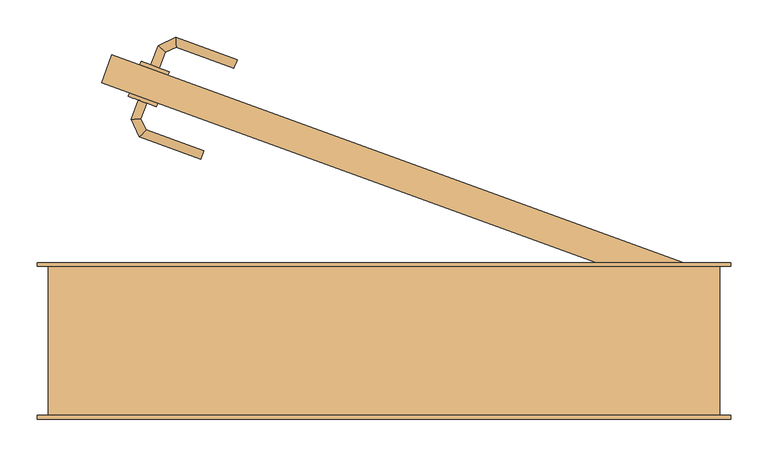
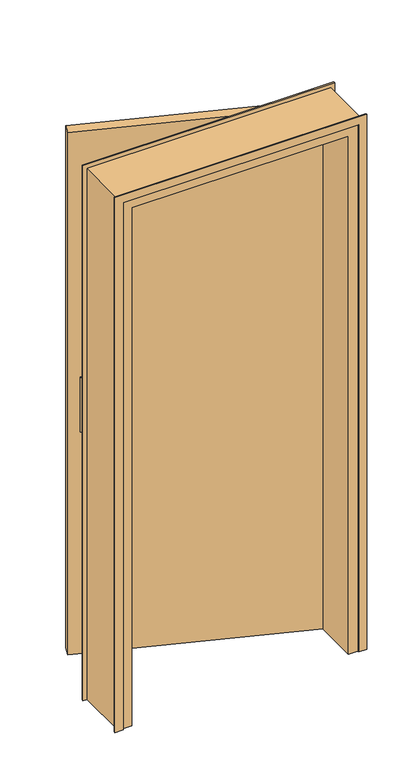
"""IFC4 building model written with IfcOpenShell, lengths in millimetres: door geometry, @_Int. Simple : @_PP (0.83m x 2.04m)."""

from ifc_helpers import new_model, si_unit, point, frame, frame_2d, origin, origin_with_axes, place, context, project, spatial, polyline, circle_curve, ellipse_curve, trimmed, segment, composite_curve, outline, extrude, faceted_brep, source, transform, mapped, element, save
from ifc_brep_helpers import plane_surface, cylinder_surface, advanced_brep


def door_4948b6b3(model_context):
    return source(origin(), model_context, "Body", "SolidModel", [
        extrude(outline(composite_curve([segment(trimmed(circle_curve(frame_2d((0.0, 40.0)), 40.0), [point((34.6410162, 60.0))], [point((34.6410162, 20.0))], False, "CARTESIAN"), True, "CONTINUOUS"), segment(polyline([(34.6410162, 20.0), (-175.3589838, 20.0)]), True, "CONTINUOUS"), segment(trimmed(circle_curve(frame_2d((-140.7179676, 40.0)), 40.0), [point((-175.3589838, 20.0))], [point((-175.3589838, 60.0))], False, "CARTESIAN"), True, "CONTINUOUS"), segment(polyline([(-175.3589838, 60.0), (34.6410162, 60.0)]), True, "CONTINUOUS")], self_intersect=False)), frame((-305.9756132, 349.6747046, 904.6410162), z_axis=(0.3420201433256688, 0.9396926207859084, 0.0), x_axis=(0.0, 0.0, -1.0)), (0.0, 0.0, 1.0), 5.0),
        extrude(outline(composite_curve([segment(trimmed(circle_curve(frame_2d((0.0, 40.0000001)), 40.0), [point((-34.6410162, 20.0))], [point((-34.6410162, 60.0))], False, "CARTESIAN"), True, "CONTINUOUS"), segment(polyline([(-34.6410162, 60.0), (175.3589838, 60.0)]), True, "CONTINUOUS"), segment(trimmed(circle_curve(frame_2d((140.7179676, 40.0000001)), 40.0), [point((175.3589838, 60.0))], [point((175.3589838, 20.0))], False, "CARTESIAN"), True, "CONTINUOUS"), segment(polyline([(175.3589838, 20.0), (-34.6410162, 20.0)]), True, "CONTINUOUS")], self_intersect=False)), frame((-321.3665196, 307.3885367, 1045.3589838), z_axis=(0.3420201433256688, 0.9396926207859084, 0.0), x_axis=(0.0, 0.0, -1.0)), (0.0, 0.0, 1.0), 5.0),
        advanced_brep(
        [(-347.491373, 370.1060943, 1007.0), (-347.491373, 370.1060943, 993.0), (-336.2150616, 366.0018526, 993.0), (-336.2150616, 366.0018526, 1007.0), (-328.457912, 387.3144458, 1007.0), (-338.0341909, 396.0894887, 1007.0), (-328.457912, 387.3144458, 993.0), (-338.0341909, 396.0894887, 993.0), (-313.9133269, 394.0966972, 1007.0), (-314.4798863, 407.0730413, 1007.0), (-313.9133269, 394.0966972, 993.0), (-314.4798863, 407.0730413, 993.0), (-232.1238807, 377.0979066, 1007.0), (-236.2281224, 365.8215952, 1007.0), (-236.2281224, 365.8215952, 993.0), (-232.1238807, 377.0979066, 993.0)],
        [
            (0, 1),
            (1, 2, circle_curve(frame((-341.8532173, 368.0539735, 1013.0457722), z_axis=(-0.3420201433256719, -0.9396926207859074, 0.0), x_axis=(0.9396926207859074, -0.3420201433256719, 0.0)), 20.9244589)),
            (2, 3),
            (3, 0, circle_curve(frame((-341.8532173, 368.0539735, 986.9542278), z_axis=(-0.3420201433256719, -0.9396926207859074, 0.0), x_axis=(0.9396926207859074, -0.3420201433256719, 0.0)), 20.9244589)),
            (3, 4),
            (4, 5, ellipse_curve(frame((-333.2460515, 391.7019672, 986.9542278), z_axis=(-0.6755902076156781, -0.7372773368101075, 0.0), x_axis=(0.7372773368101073, -0.6755902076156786, 0.0)), 22.6484711, 20.9244589)),
            (5, 0),
            (2, 6),
            (6, 4),
            (1, 7),
            (7, 6, ellipse_curve(frame((-333.2460515, 391.7019672, 1013.0457722), z_axis=(-0.6755902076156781, -0.7372773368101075, 0.0), x_axis=(0.7372773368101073, -0.6755902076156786, 0.0)), 22.6484711, 20.9244589)),
            (5, 7),
            (4, 8),
            (8, 9, ellipse_curve(frame((-314.1966066, 400.5848693, 986.9542278), z_axis=(-0.9990482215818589, -0.0436193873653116, 0.0), x_axis=(0.04361938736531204, -0.9990482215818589, 0.0)), 22.6484711, 20.9244589)),
            (9, 5),
            (6, 10),
            (10, 8),
            (7, 11),
            (11, 10, ellipse_curve(frame((-314.1966066, 400.5848693, 1013.0457722), z_axis=(-0.9990482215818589, -0.0436193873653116, 0.0), x_axis=(0.04361938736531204, -0.9990482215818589, 0.0)), 22.6484711, 20.9244589)),
            (9, 11),
            (12, 13, circle_curve(frame((-234.1760015, 371.4597509, 986.9542278), z_axis=(0.9396926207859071, -0.34202014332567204, 0.0), x_axis=(-0.3420201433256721, -0.9396926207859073, 0.0)), 20.9244589)),
            (13, 14),
            (14, 15, circle_curve(frame((-234.1760015, 371.4597509, 1013.0457722), z_axis=(0.9396926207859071, -0.34202014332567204, 0.0), x_axis=(-0.3420201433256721, -0.9396926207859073, 0.0)), 20.9244589)),
            (15, 12),
            (8, 13),
            (12, 9),
            (10, 14),
            (11, 15),
        ],
        [
            plane_surface(frame((-350.5167552, 371.2072434, 1000.0), z_axis=(-0.3420201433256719, -0.9396926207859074, 0.0), x_axis=(0.0, 0.0, -1.0))),
            cylinder_surface(frame((-341.8532173, 368.0539735, 986.9542278), z_axis=(-0.3420201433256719, -0.9396926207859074, 0.0), x_axis=(0.9396926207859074, -0.3420201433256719, 0.0)), 20.9244589),
            plane_surface(frame((-336.2150616, 366.0018526, 1007.0), z_axis=(0.9396926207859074, -0.3420201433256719, 0.0), x_axis=(0.3420201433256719, 0.9396926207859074, 0.0))),
            cylinder_surface(frame((-341.8532173, 368.0539735, 1013.0457722), z_axis=(-0.3420201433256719, -0.9396926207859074, 0.0), x_axis=(0.9396926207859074, -0.3420201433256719, 0.0)), 20.9244589),
            plane_surface(frame((-347.491373, 370.1060943, 993.0), z_axis=(-0.9396926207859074, 0.3420201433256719, 0.0), x_axis=(0.3420201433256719, 0.9396926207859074, 0.0))),
            cylinder_surface(frame((-333.2460515, 391.7019672, 986.9542278), z_axis=(-0.9063077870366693, -0.42261826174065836, 0.0), x_axis=(0.42261826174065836, -0.9063077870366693, 0.0)), 20.9244589),
            plane_surface(frame((-328.457912, 387.3144458, 1007.0), z_axis=(0.42261826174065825, -0.9063077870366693, 0.0), x_axis=(0.9063077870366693, 0.42261826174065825, 0.0))),
            cylinder_surface(frame((-333.2460515, 391.7019672, 1013.0457722), z_axis=(-0.9063077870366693, -0.42261826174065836, 0.0), x_axis=(0.42261826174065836, -0.9063077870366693, 0.0)), 20.9244589),
            plane_surface(frame((-338.0341909, 396.0894887, 993.0), z_axis=(-0.42261826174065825, 0.9063077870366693, 0.0), x_axis=(0.9063077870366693, 0.42261826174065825, 0.0))),
            plane_surface(frame((-234.1760015, 371.4597509, 990.7804555), z_axis=(0.9396926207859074, -0.3420201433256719, 0.0), x_axis=(-0.3420201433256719, -0.9396926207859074, 0.0))),
            cylinder_surface(frame((-314.1966066, 400.5848693, 986.9542278), z_axis=(-0.9396926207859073, 0.3420201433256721, 0.0), x_axis=(-0.3420201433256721, -0.9396926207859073, 0.0)), 20.9244589),
            plane_surface(frame((-313.9133269, 394.0966972, 1007.0), z_axis=(-0.3420201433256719, -0.9396926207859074, 0.0), x_axis=(0.9396926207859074, -0.3420201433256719, 0.0))),
            cylinder_surface(frame((-314.1966066, 400.5848693, 1013.0457722), z_axis=(-0.9396926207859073, 0.3420201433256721, 0.0), x_axis=(-0.3420201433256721, -0.9396926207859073, 0.0)), 20.9244589),
            plane_surface(frame((-314.4798863, 407.0730413, 993.0), z_axis=(0.3420201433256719, 0.9396926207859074, 0.0), x_axis=(0.9396926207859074, -0.3420201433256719, 0.0))),
        ],
        [
            (0, [[1, 2, 3, 4]]),
            (1, [[5, 6, 7, -4]]),
            (2, [[8, 9, -5, -3]]),
            (3, [[10, 11, -8, -2]]),
            (4, [[-7, 12, -10, -1]]),
            (5, [[13, 14, 15, -6]]),
            (6, [[16, 17, -13, -9]]),
            (7, [[18, 19, -16, -11]]),
            (8, [[-15, 20, -18, -12]]),
            (9, [[21, 22, 23, 24]]),
            (10, [[25, -21, 26, -14]]),
            (11, [[27, -22, -25, -17]]),
            (12, [[28, -23, -27, -19]]),
            (13, [[-26, -24, -28, -20]]),
        ],
    ),
        advanced_brep(
        [(-353.3160687, 319.0172216, 993.0), (-364.5923802, 323.1214633, 993.0), (-364.5923802, 323.1214633, 1007.0), (-353.3160687, 319.0172216, 1007.0), (-361.0064616, 297.8880408, 1007.0), (-361.0064616, 297.8880408, 993.0), (-373.9828056, 297.3214814, 1007.0), (-373.9828056, 297.3214814, 993.0), (-354.142025, 283.1672091, 1007.0), (-354.142025, 283.1672091, 993.0), (-362.9170679, 273.5909302, 1007.0), (-362.9170679, 273.5909302, 993.0), (-276.5605303, 254.9298543, 993.0), (-276.5605303, 254.9298543, 1007.0), (-280.664772, 243.6535428, 1007.0), (-280.664772, 243.6535428, 993.0)],
        [
            (0, 1, circle_curve(frame((-358.9542245, 321.0693424, 1013.0457722), z_axis=(0.3420201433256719, 0.9396926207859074, 0.0), x_axis=(-0.9396926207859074, 0.3420201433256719, 0.0)), 20.9244589)),
            (1, 2),
            (2, 3, circle_curve(frame((-358.9542245, 321.0693424, 986.9542278), z_axis=(0.3420201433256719, 0.9396926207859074, 0.0), x_axis=(-0.9396926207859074, 0.3420201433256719, 0.0)), 20.9244589)),
            (3, 0),
            (3, 4),
            (4, 5),
            (5, 0),
            (2, 6),
            (6, 4, ellipse_curve(frame((-367.4946336, 297.6047611, 986.9542278), z_axis=(-0.043619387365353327, 0.9990482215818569, 0.0), x_axis=(0.9990482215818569, 0.04361938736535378, 0.0)), 22.6484711, 20.9244589)),
            (1, 7),
            (7, 6),
            (5, 7, ellipse_curve(frame((-367.4946336, 297.6047611, 1013.0457722), z_axis=(-0.043619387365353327, 0.9990482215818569, 0.0), x_axis=(0.9990482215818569, 0.04361938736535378, 0.0)), 22.6484711, 20.9244589)),
            (4, 8),
            (8, 9),
            (9, 5),
            (6, 10),
            (10, 8, ellipse_curve(frame((-358.5295465, 278.3790696, 986.9542278), z_axis=(-0.737277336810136, 0.6755902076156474, 0.0), x_axis=(0.6755902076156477, 0.7372773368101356, 0.0)), 22.6484711, 20.9244589)),
            (7, 11),
            (11, 10),
            (9, 11, ellipse_curve(frame((-358.5295465, 278.3790696, 1013.0457722), z_axis=(-0.737277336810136, 0.6755902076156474, 0.0), x_axis=(0.6755902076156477, 0.7372773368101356, 0.0)), 22.6484711, 20.9244589)),
            (12, 13),
            (13, 14, circle_curve(frame((-278.6126511, 249.2916985, 986.9542278), z_axis=(0.9396926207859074, -0.3420201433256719, 0.0), x_axis=(-0.3420201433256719, -0.9396926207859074, 0.0)), 20.9244589)),
            (14, 15),
            (15, 12, circle_curve(frame((-278.6126511, 249.2916985, 1013.0457722), z_axis=(0.9396926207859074, -0.3420201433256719, 0.0), x_axis=(-0.3420201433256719, -0.9396926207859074, 0.0)), 20.9244589)),
            (8, 13),
            (12, 9),
            (10, 14),
            (11, 15),
        ],
        [
            plane_surface(frame((-367.6177623, 324.2226123, 1000.0), z_axis=(0.3420201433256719, 0.9396926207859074, 0.0), x_axis=(0.0, 0.0, 1.0))),
            plane_surface(frame((-353.3160687, 319.0172216, 993.0), z_axis=(0.9396926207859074, -0.3420201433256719, 0.0), x_axis=(-0.3420201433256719, -0.9396926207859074, 0.0))),
            cylinder_surface(frame((-358.9542245, 321.0693424, 986.9542278), z_axis=(0.3420201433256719, 0.9396926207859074, 0.0), x_axis=(-0.9396926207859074, 0.3420201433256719, 0.0)), 20.9244589),
            plane_surface(frame((-364.5923802, 323.1214633, 1007.0), z_axis=(-0.9396926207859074, 0.3420201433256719, 0.0), x_axis=(-0.3420201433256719, -0.9396926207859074, 0.0))),
            cylinder_surface(frame((-358.9542245, 321.0693424, 1013.0457722), z_axis=(0.3420201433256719, 0.9396926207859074, 0.0), x_axis=(-0.9396926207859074, 0.3420201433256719, 0.0)), 20.9244589),
            plane_surface(frame((-361.0064616, 297.8880408, 993.0), z_axis=(0.906307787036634, 0.42261826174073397, 0.0), x_axis=(0.42261826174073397, -0.906307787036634, 0.0))),
            cylinder_surface(frame((-367.4946336, 297.6047611, 986.9542278), z_axis=(-0.422618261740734, 0.9063077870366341, 0.0), x_axis=(-0.9063077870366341, -0.422618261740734, 0.0)), 20.9244589),
            plane_surface(frame((-373.9828056, 297.3214814, 1007.0), z_axis=(-0.906307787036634, -0.4226182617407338, 0.0), x_axis=(0.4226182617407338, -0.906307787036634, 0.0))),
            cylinder_surface(frame((-367.4946336, 297.6047611, 1013.0457722), z_axis=(-0.422618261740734, 0.9063077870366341, 0.0), x_axis=(-0.9063077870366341, -0.422618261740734, 0.0)), 20.9244589),
            plane_surface(frame((-278.6126511, 249.2916985, 990.7804555), z_axis=(0.9396926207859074, -0.3420201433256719, 0.0), x_axis=(-0.3420201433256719, -0.9396926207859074, 0.0))),
            plane_surface(frame((-354.142025, 283.1672091, 993.0), z_axis=(0.3420201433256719, 0.9396926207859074, 0.0), x_axis=(0.9396926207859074, -0.3420201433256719, 0.0))),
            cylinder_surface(frame((-358.5295465, 278.3790696, 986.9542278), z_axis=(-0.9396926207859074, 0.3420201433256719, 0.0), x_axis=(-0.3420201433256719, -0.9396926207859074, 0.0)), 20.9244589),
            plane_surface(frame((-362.9170679, 273.5909302, 1007.0), z_axis=(-0.3420201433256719, -0.9396926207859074, 0.0), x_axis=(0.9396926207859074, -0.3420201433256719, 0.0))),
            cylinder_surface(frame((-358.5295465, 278.3790696, 1013.0457722), z_axis=(-0.9396926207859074, 0.3420201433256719, 0.0), x_axis=(-0.3420201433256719, -0.9396926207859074, 0.0)), 20.9244589),
        ],
        [
            (0, [[1, 2, 3, 4]]),
            (1, [[5, 6, 7, -4]]),
            (2, [[8, 9, -5, -3]]),
            (3, [[10, 11, -8, -2]]),
            (4, [[-7, 12, -10, -1]]),
            (5, [[13, 14, 15, -6]]),
            (6, [[16, 17, -13, -9]]),
            (7, [[18, 19, -16, -11]]),
            (8, [[-15, 20, -18, -12]]),
            (9, [[21, 22, 23, 24]]),
            (10, [[25, -21, 26, -14]]),
            (11, [[27, -22, -25, -17]]),
            (12, [[28, -23, -27, -19]]),
            (13, [[-26, -24, -28, -20]]),
        ],
    ),
        extrude(outline(polyline([(-413.625681, 346.2890141), (-399.9448753, 383.876719), (380.0, 100.0), (366.3191943, 62.4122952), (-413.625681, 346.2890141)])), origin_with_axes(), (0.0, 0.0, 1.0), 2040.0),
        faceted_brep([(-485.0, 100.0, 0.0), (-450.0, 100.0, 0.0), (-450.0, 60.0, 0.0), (-435.0, 60.0, 0.0), (-435.0, -100.0, 0.0), (-485.0, -100.0, 0.0), (-485.0, -100.0, 2075.0), (-485.0, 100.0, 2075.0), (-435.0, -100.0, 2025.0), (365.0, -100.0, 2025.0), (365.0, -100.0, 0.0), (415.0, -100.0, 0.0), (415.0, -100.0, 2075.0), (-435.0, 60.0, 2025.0), (-450.0, 60.0, 2040.0), (380.0, 60.0, 2040.0), (380.0, 60.0, 0.0), (365.0, 60.0, 0.0), (365.0, 60.0, 2025.0), (-450.0, 100.0, 2040.0), (415.0, 100.0, 2075.0), (415.0, 100.0, 0.0), (380.0, 100.0, 0.0), (380.0, 100.0, 2040.0)], [[[0, 1, 2, 3, 4, 5]], [[5, 6, 7, 0]], [[4, 8, 9, 10, 11, 12, 6, 5]], [[3, 13, 8, 4]], [[2, 14, 15, 16, 17, 18, 13, 3]], [[1, 19, 14, 2]], [[0, 7, 20, 21, 22, 23, 19, 1]], [[12, 11, 21, 20]], [[21, 11, 10, 17, 16, 22]], [[18, 17, 10, 9]], [[23, 22, 16, 15]], [[6, 12, 20, 7]], [[13, 18, 9, 8]], [[19, 23, 15, 14]]]),
        extrude(outline(polyline([(0.0, -470.0), (2060.0, -470.0), (2060.0, 400.0), (0.0, 400.0), (0.0, 430.0), (2090.0, 430.0), (2090.0, -500.0), (0.0, -500.0), (0.0, -470.0)])), frame((0.0, 100.0, 0.0), z_axis=(0.0, 1.0, 0.0), x_axis=(0.0, 0.0, 1.0)), (0.0, 0.0, 1.0), 5.0),
        extrude(outline(polyline([(0.0, -470.0), (2060.0, -470.0), (2060.0, 400.0), (0.0, 400.0), (0.0, 430.0), (2090.0, 430.0), (2090.0, -500.0), (0.0, -500.0), (0.0, -470.0)])), frame((0.0, -105.0, 0.0), z_axis=(0.0, 1.0, 0.0), x_axis=(0.0, 0.0, 1.0)), (0.0, 0.0, 1.0), 5.0),
    ])


if __name__ == "__main__":
    model = new_model("IFC4")
    model_context = context("Model", 3, world=origin())
    ifc_project = project(units=[si_unit("LENGTHUNIT", "METRE", prefix="MILLI")], contexts=[model_context])
    site = spatial("IfcSite", under=ifc_project)
    building = spatial("IfcBuilding", under=site)
    placement = place(None, origin())
    door_shape = door_4948b6b3(model_context)
    element("IfcDoor", 1, ObjectType="@_Int. Simple : @_PP (0.83m x 2.04m)", at=placement, inside=building, context=model_context, shape_type="MappedRepresentation", body=[
        mapped(door_shape, transform((0.0, 0.0, 0.0), x_axis=(1.0, 0.0, 0.0), y_axis=(0.0, 1.0, 0.0), z_axis=(0.0, 0.0, 1.0))),
    ])
    save(model, "model.ifc")
